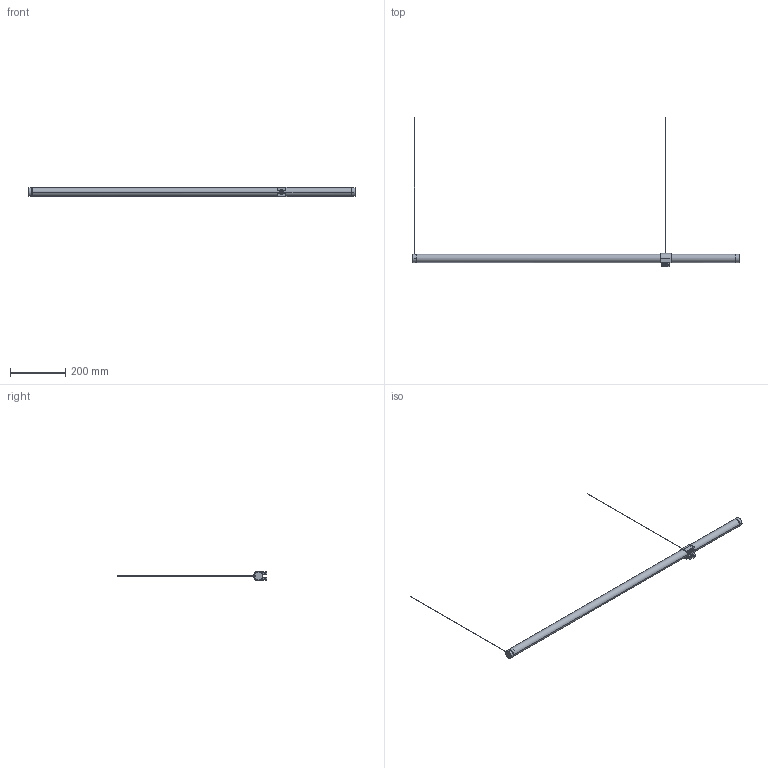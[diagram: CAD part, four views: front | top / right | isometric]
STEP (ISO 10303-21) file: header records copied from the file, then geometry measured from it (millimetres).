
FILE_DESCRIPTION (( 'STEP AP214' ), '1' );
FILE_NAME ('ACTUCCXXXXBI1XX.STEP', '2023-08-29T07:38:28', ( '' ), ( '' ), 'SwSTEP 2.0', 'SolidWorks 2023', '' );
FILE_SCHEMA (( 'AUTOMOTIVE_DESIGN' ));
Length unit declared in the file: millimetre
Products named in the file (6): WSCP2E0044-1400-01; ACTUCCXXXXBI1XX; WSCA01193000B2830B; WSCP2E0003-1400-02; WSVBPAR116225XX-00; WSCP2E0048-1400-00
Assembly tree (6 placements, depth 2):
  ACTUCCXXXXBI1XX
    WSVBPAR116225XX-00
    WSCP2E0003-1400-02
    WSCP2E0048-1400-00
    WSCP2E0044-1400-01
    WSCA01193000B2830B  x2
Bounding box: 1186 x 543.11 x 36.2 mm (x, y, z)
Volume: 310577.8 mm3; surface area: 220612.2 mm2
Topology: 6 solids, 6 shells, 1721 faces, 4145 edges, 2231 vertices
Faces by surface type: cylinder 700, torus 466, plane 209, sphere 185, bspline 151, cone 10
Entity records: 52465 total; most frequent: CARTESIAN_POINT 14307, DIRECTION 8780, ORIENTED_EDGE 7664, EDGE_CURVE 3832, AXIS2_PLACEMENT_3D 3782, CIRCLE 2210, VERTEX_POINT 2130, EDGE_LOOP 1738
